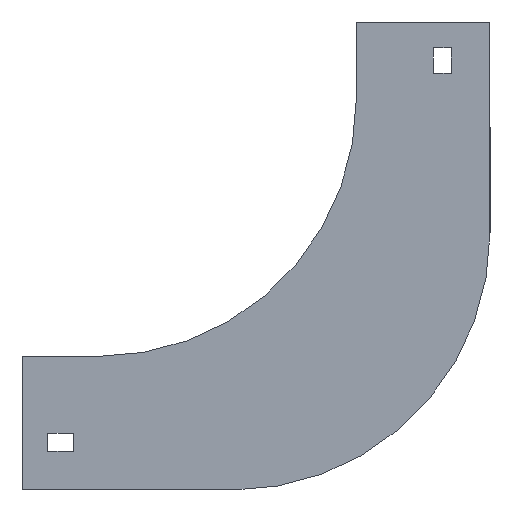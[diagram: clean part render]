
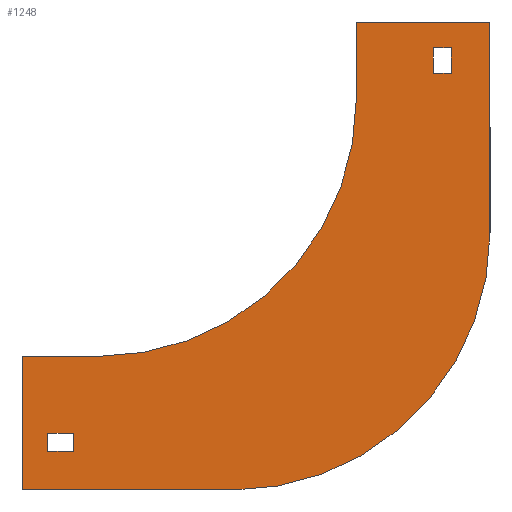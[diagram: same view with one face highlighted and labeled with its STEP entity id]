
A CAD part, left-side view. The second image highlights one B-rep face of the part: STEP entity #1248.
In plain terms, the highlighted planar face has unit normal (-1, 0, 0).
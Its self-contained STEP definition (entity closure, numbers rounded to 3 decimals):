
#8 = LINE ( 'NONE', #893, #1045 ) ;
#16 = DIRECTION ( 'NONE',  ( 0., 0., -1. ) ) ;
#18 = LINE ( 'NONE', #126, #128 ) ;
#30 = VERTEX_POINT ( 'NONE', #764 ) ;
#34 = VERTEX_POINT ( 'NONE', #1187 ) ;
#50 = EDGE_CURVE ( 'NONE', #430, #54, #186, .T. ) ;
#51 = CARTESIAN_POINT ( 'NONE',  ( -252., 130., -182. ) ) ;
#54 = VERTEX_POINT ( 'NONE', #727 ) ;
#62 = LINE ( 'NONE', #311, #450 ) ;
#66 = CARTESIAN_POINT ( 'NONE',  ( -252., -30., -20. ) ) ;
#73 = ORIENTED_EDGE ( 'NONE', *, *, #1154, .F. ) ;
#88 = EDGE_CURVE ( 'NONE', #929, #1404, #515, .T. ) ;
#111 = DIRECTION ( 'NONE',  ( 0., -1., 0. ) ) ;
#119 = CARTESIAN_POINT ( 'NONE',  ( -252., 100., -30. ) ) ;
#120 = CARTESIAN_POINT ( 'NONE',  ( -252., 110., -160. ) ) ;
#126 = CARTESIAN_POINT ( 'NONE',  ( -252., 130., -130. ) ) ;
#128 = VECTOR ( 'NONE', #880, 1000. ) ;
#131 = DIRECTION ( 'NONE',  ( 0., 0., -1. ) ) ;
#138 = CARTESIAN_POINT ( 'NONE',  ( -252., 0., -30. ) ) ;
#164 = DIRECTION ( 'NONE',  ( 0., 0., -1. ) ) ;
#174 = CARTESIAN_POINT ( 'NONE',  ( -252., 100., -30. ) ) ;
#186 = LINE ( 'NONE', #1046, #415 ) ;
#188 = CARTESIAN_POINT ( 'NONE',  ( -252., 0., 0. ) ) ;
#198 = VERTEX_POINT ( 'NONE', #801 ) ;
#224 = FACE_BOUND ( 'NONE', #1028, .T. ) ;
#237 = CARTESIAN_POINT ( 'NONE',  ( -252., -52., -82. ) ) ;
#240 = CARTESIAN_POINT ( 'NONE',  ( -252., 120., -160. ) ) ;
#276 = VERTEX_POINT ( 'NONE', #120 ) ;
#286 = ORIENTED_EDGE ( 'NONE', *, *, #619, .F. ) ;
#302 = VERTEX_POINT ( 'NONE', #237 ) ;
#308 = ORIENTED_EDGE ( 'NONE', *, *, #699, .F. ) ;
#311 = CARTESIAN_POINT ( 'NONE',  ( -252., 130., -182. ) ) ;
#313 = ORIENTED_EDGE ( 'NONE', *, *, #719, .F. ) ;
#318 = CARTESIAN_POINT ( 'NONE',  ( -252., 100., -130. ) ) ;
#321 = ORIENTED_EDGE ( 'NONE', *, *, #50, .F. ) ;
#344 = VECTOR ( 'NONE', #365, 1000. ) ;
#365 = DIRECTION ( 'NONE',  ( 0., 1., 0. ) ) ;
#382 = DIRECTION ( 'NONE',  ( 0., -1., 0. ) ) ;
#383 = VERTEX_POINT ( 'NONE', #1152 ) ;
#384 = CARTESIAN_POINT ( 'NONE',  ( -252., -52., 0. ) ) ;
#400 = DIRECTION ( 'NONE',  ( 0., 0., 1. ) ) ;
#404 = EDGE_CURVE ( 'NONE', #34, #1387, #769, .T. ) ;
#413 = CARTESIAN_POINT ( 'NONE',  ( -252., 0., 0. ) ) ;
#415 = VECTOR ( 'NONE', #1266, 1000. ) ;
#430 = VERTEX_POINT ( 'NONE', #684 ) ;
#434 = ORIENTED_EDGE ( 'NONE', *, *, #1063, .F. ) ;
#441 = LINE ( 'NONE', #1297, #605 ) ;
#442 = EDGE_CURVE ( 'NONE', #1387, #1070, #624, .T. ) ;
#450 = VECTOR ( 'NONE', #754, 1000. ) ;
#461 = LINE ( 'NONE', #925, #1393 ) ;
#488 = DIRECTION ( 'NONE',  ( 0., 0., 1. ) ) ;
#494 = ORIENTED_EDGE ( 'NONE', *, *, #1179, .T. ) ;
#495 = DIRECTION ( 'NONE',  ( 0., -1., 0. ) ) ;
#497 = ORIENTED_EDGE ( 'NONE', *, *, #442, .F. ) ;
#515 = LINE ( 'NONE', #1361, #944 ) ;
#519 = ORIENTED_EDGE ( 'NONE', *, *, #1339, .F. ) ;
#532 = AXIS2_PLACEMENT_3D ( 'NONE', #119, #548, #1311 ) ;
#534 = VERTEX_POINT ( 'NONE', #240 ) ;
#548 = DIRECTION ( 'NONE',  ( 1., 0., 0. ) ) ;
#594 = DIRECTION ( 'NONE',  ( -1., 0., 0. ) ) ;
#600 = VECTOR ( 'NONE', #743, 1000. ) ;
#603 = VECTOR ( 'NONE', #382, 1000. ) ;
#605 = VECTOR ( 'NONE', #111, 1000. ) ;
#607 = ORIENTED_EDGE ( 'NONE', *, *, #1268, .F. ) ;
#619 = EDGE_CURVE ( 'NONE', #54, #276, #1249, .T. ) ;
#623 = ORIENTED_EDGE ( 'NONE', *, *, #88, .T. ) ;
#624 = LINE ( 'NONE', #413, #600 ) ;
#629 = DIRECTION ( 'NONE',  ( 1., 0., 0. ) ) ;
#646 = CIRCLE ( 'NONE', #932, 100. ) ;
#647 = VERTEX_POINT ( 'NONE', #51 ) ;
#669 = LINE ( 'NONE', #1112, #1324 ) ;
#684 = CARTESIAN_POINT ( 'NONE',  ( -252., 120., -167. ) ) ;
#699 = EDGE_CURVE ( 'NONE', #860, #647, #62, .T. ) ;
#719 = EDGE_CURVE ( 'NONE', #383, #34, #1292, .T. ) ;
#727 = CARTESIAN_POINT ( 'NONE',  ( -252., 110., -167. ) ) ;
#743 = DIRECTION ( 'NONE',  ( 0., 0., 1. ) ) ;
#754 = DIRECTION ( 'NONE',  ( 0., 1., 0. ) ) ;
#763 = ORIENTED_EDGE ( 'NONE', *, *, #1218, .F. ) ;
#764 = CARTESIAN_POINT ( 'NONE',  ( -252., -37., -10. ) ) ;
#769 = CIRCLE ( 'NONE', #1015, 100. ) ;
#774 = FACE_OUTER_BOUND ( 'NONE', #986, .T. ) ;
#779 = PLANE ( 'NONE',  #532 ) ;
#786 = EDGE_CURVE ( 'NONE', #647, #383, #18, .T. ) ;
#801 = CARTESIAN_POINT ( 'NONE',  ( -252., -37., -20. ) ) ;
#804 = CARTESIAN_POINT ( 'NONE',  ( -252., -30., -20. ) ) ;
#824 = ORIENTED_EDGE ( 'NONE', *, *, #786, .F. ) ;
#847 = EDGE_LOOP ( 'NONE', ( #623, #1285, #494, #1329 ) ) ;
#860 = VERTEX_POINT ( 'NONE', #1121 ) ;
#870 = VERTEX_POINT ( 'NONE', #384 ) ;
#877 = DIRECTION ( 'NONE',  ( 0., 1., 0. ) ) ;
#880 = DIRECTION ( 'NONE',  ( 0., 0., 1. ) ) ;
#893 = CARTESIAN_POINT ( 'NONE',  ( -252., 120., -160. ) ) ;
#925 = CARTESIAN_POINT ( 'NONE',  ( -252., 120., -160. ) ) ;
#929 = VERTEX_POINT ( 'NONE', #804 ) ;
#932 = AXIS2_PLACEMENT_3D ( 'NONE', #948, #629, #400 ) ;
#939 = EDGE_CURVE ( 'NONE', #198, #929, #1145, .T. ) ;
#944 = VECTOR ( 'NONE', #488, 1000. ) ;
#948 = CARTESIAN_POINT ( 'NONE',  ( -252., 48., -82. ) ) ;
#986 = EDGE_LOOP ( 'NONE', ( #763, #497, #1328, #313, #824, #308, #434, #607 ) ) ;
#1015 = AXIS2_PLACEMENT_3D ( 'NONE', #174, #594, #1357 ) ;
#1028 = EDGE_LOOP ( 'NONE', ( #519, #73, #286, #321 ) ) ;
#1045 = VECTOR ( 'NONE', #877, 1000. ) ;
#1046 = CARTESIAN_POINT ( 'NONE',  ( -252., 120., -167. ) ) ;
#1047 = LINE ( 'NONE', #1141, #603 ) ;
#1063 = EDGE_CURVE ( 'NONE', #302, #860, #646, .T. ) ;
#1070 = VERTEX_POINT ( 'NONE', #188 ) ;
#1112 = CARTESIAN_POINT ( 'NONE',  ( -252., -52., -82. ) ) ;
#1121 = CARTESIAN_POINT ( 'NONE',  ( -252., 48., -182. ) ) ;
#1141 = CARTESIAN_POINT ( 'NONE',  ( -252., -30., -10. ) ) ;
#1145 = LINE ( 'NONE', #66, #344 ) ;
#1147 = CARTESIAN_POINT ( 'NONE',  ( -252., 110., -160. ) ) ;
#1152 = CARTESIAN_POINT ( 'NONE',  ( -252., 130., -130. ) ) ;
#1154 = EDGE_CURVE ( 'NONE', #276, #534, #8, .T. ) ;
#1160 = DIRECTION ( 'NONE',  ( 0., 0., 1. ) ) ;
#1179 = EDGE_CURVE ( 'NONE', #30, #198, #1211, .T. ) ;
#1187 = CARTESIAN_POINT ( 'NONE',  ( -252., 100., -130. ) ) ;
#1198 = FACE_BOUND ( 'NONE', #847, .T. ) ;
#1203 = VECTOR ( 'NONE', #1160, 1000. ) ;
#1211 = LINE ( 'NONE', #1401, #1349 ) ;
#1218 = EDGE_CURVE ( 'NONE', #1070, #870, #441, .T. ) ;
#1227 = CARTESIAN_POINT ( 'NONE',  ( -252., -30., -10. ) ) ;
#1248 = ADVANCED_FACE ( 'NONE', ( #774, #1198, #224 ), #779, .F. ) ;
#1249 = LINE ( 'NONE', #1147, #1203 ) ;
#1255 = VECTOR ( 'NONE', #495, 1000. ) ;
#1266 = DIRECTION ( 'NONE',  ( 0., -1., 0. ) ) ;
#1268 = EDGE_CURVE ( 'NONE', #870, #302, #669, .T. ) ;
#1284 = EDGE_CURVE ( 'NONE', #1404, #30, #1047, .T. ) ;
#1285 = ORIENTED_EDGE ( 'NONE', *, *, #1284, .T. ) ;
#1292 = LINE ( 'NONE', #318, #1255 ) ;
#1297 = CARTESIAN_POINT ( 'NONE',  ( -252., -52., 0. ) ) ;
#1311 = DIRECTION ( 'NONE',  ( 0., 0., -1. ) ) ;
#1324 = VECTOR ( 'NONE', #131, 1000. ) ;
#1328 = ORIENTED_EDGE ( 'NONE', *, *, #404, .F. ) ;
#1329 = ORIENTED_EDGE ( 'NONE', *, *, #939, .T. ) ;
#1339 = EDGE_CURVE ( 'NONE', #534, #430, #461, .T. ) ;
#1349 = VECTOR ( 'NONE', #16, 1000. ) ;
#1357 = DIRECTION ( 'NONE',  ( 0., 0., -1. ) ) ;
#1361 = CARTESIAN_POINT ( 'NONE',  ( -252., -30., -10. ) ) ;
#1387 = VERTEX_POINT ( 'NONE', #138 ) ;
#1393 = VECTOR ( 'NONE', #164, 1000. ) ;
#1401 = CARTESIAN_POINT ( 'NONE',  ( -252., -37., -10. ) ) ;
#1404 = VERTEX_POINT ( 'NONE', #1227 ) ;
